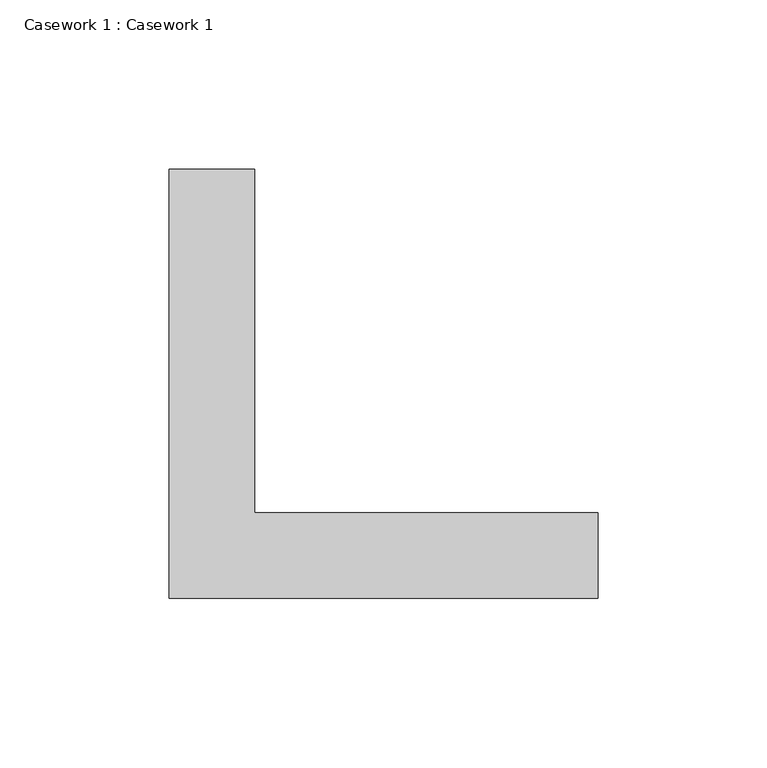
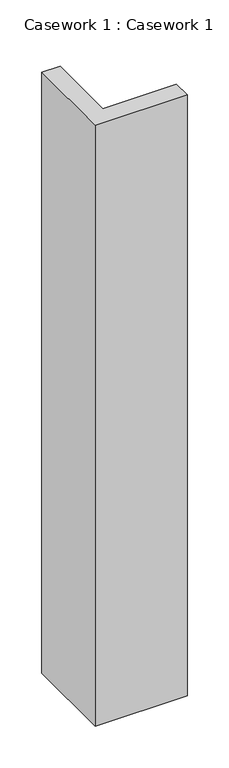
"""IFC4 building model written with IfcOpenShell, lengths in millimetres: furniture geometry, Casework 1 : Casework 1."""

from ifc_helpers import new_model, si_unit, origin, origin_with_axes, place, context, project, spatial, polyline, outline, extrude, source, transform, mapped, element, save


def casework_1_casework_1_530cd3f0(model_context):
    return source(origin(), model_context, "Body", "SweptSolid", [
        extrude(outline(polyline([(-5528.9401664, 10742.9683939), (-5427.3401664, 10742.9683939), (-5427.3401664, 10717.5683939), (-5554.3401664, 10717.5683939), (-5554.3401664, 10844.5683939), (-5528.9401664, 10844.5683939), (-5528.9401664, 10742.9683939)])), origin_with_axes(), (0.0, 0.0, 1.0), 876.3),
    ])


if __name__ == "__main__":
    model = new_model("IFC4")
    model_context = context("Model", 3, world=origin())
    ifc_project = project(units=[si_unit("LENGTHUNIT", "METRE", prefix="MILLI")], contexts=[model_context])
    site = spatial("IfcSite", under=ifc_project)
    building = spatial("IfcBuilding", under=site)
    placement = place(None, origin())
    casework_1_casework_1_shape = casework_1_casework_1_530cd3f0(model_context)
    element("IfcFurniture", 1, ObjectType="Casework 1 : Casework 1", at=placement, inside=building, context=model_context, shape_type="MappedRepresentation", body=[
        mapped(casework_1_casework_1_shape, transform((0.0, 0.0, 0.0), x_axis=(1.0, 0.0, 0.0), y_axis=(0.0, 1.0, 0.0), z_axis=(0.0, 0.0, 1.0))),
    ])
    save(model, "model.ifc")
